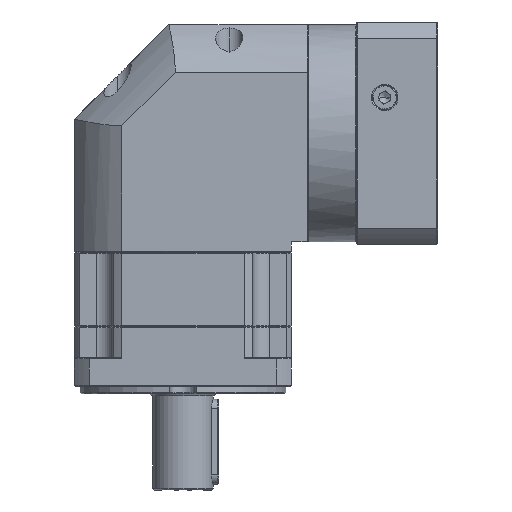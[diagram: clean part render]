
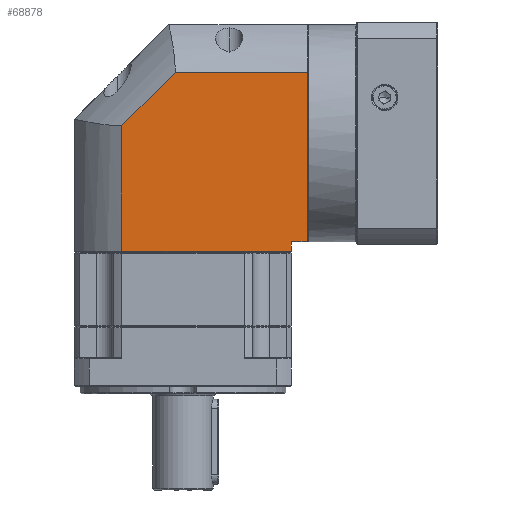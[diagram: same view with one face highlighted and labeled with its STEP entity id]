
A CAD part, front view. The second image highlights one B-rep face of the part: STEP entity #68878.
In plain terms, the highlighted planar face has unit normal (0, -1, 0).
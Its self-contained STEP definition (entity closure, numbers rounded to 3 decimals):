
#1187 = LINE ( 'NONE', #49306, #54558 ) ;
#1414 = CARTESIAN_POINT ( 'NONE',  ( -17.02, 5.353, 45.963 ) ) ;
#7157 = CARTESIAN_POINT ( 'NONE',  ( 8.08, 5.353, 17.625 ) ) ;
#11202 = ORIENTED_EDGE ( 'NONE', *, *, #39828, .F. ) ;
#12199 = CARTESIAN_POINT ( 'NONE',  ( 97.98, 5.353, -55.436 ) ) ;
#12451 = VERTEX_POINT ( 'NONE', #7157 ) ;
#14252 = CARTESIAN_POINT ( 'NONE',  ( 97.98, 5.353, -48.936 ) ) ;
#14408 = DIRECTION ( 'NONE',  ( 1., 0., 0. ) ) ;
#15248 = ORIENTED_EDGE ( 'NONE', *, *, #63106, .F. ) ;
#25586 = VECTOR ( 'NONE', #44256, 1000. ) ;
#25639 = VECTOR ( 'NONE', #92443, 1000. ) ;
#31123 = CARTESIAN_POINT ( 'NONE',  ( 36.419, 5.353, 45.963 ) ) ;
#33727 = ORIENTED_EDGE ( 'NONE', *, *, #87807, .F. ) ;
#34309 = CARTESIAN_POINT ( 'NONE',  ( 106.38, 5.353, -55.436 ) ) ;
#34599 = ORIENTED_EDGE ( 'NONE', *, *, #39906, .F. ) ;
#35878 = DIRECTION ( 'NONE',  ( 0., 1., 0. ) ) ;
#39641 = VERTEX_POINT ( 'NONE', #72481 ) ;
#39828 = EDGE_CURVE ( 'NONE', #12451, #71706, #84429, .T. ) ;
#39906 = EDGE_CURVE ( 'NONE', #95952, #12451, #125965, .T. ) ;
#43702 = EDGE_CURVE ( 'NONE', #71706, #123432, #127220, .T. ) ;
#44256 = DIRECTION ( 'NONE',  ( 1., 0., 0. ) ) ;
#49306 = CARTESIAN_POINT ( 'NONE',  ( -17.02, 5.353, -43.936 ) ) ;
#50174 = FACE_OUTER_BOUND ( 'NONE', #64641, .T. ) ;
#51274 = ORIENTED_EDGE ( 'NONE', *, *, #88042, .F. ) ;
#54558 = VECTOR ( 'NONE', #81912, 1000. ) ;
#55008 = PLANE ( 'NONE',  #85430 ) ;
#63106 = EDGE_CURVE ( 'NONE', #78894, #125622, #88835, .T. ) ;
#64641 = EDGE_LOOP ( 'NONE', ( #15248, #72925, #33727, #124529, #11202, #34599, #51274 ) ) ;
#65963 = CARTESIAN_POINT ( 'NONE',  ( 8.08, 5.353, -48.936 ) ) ;
#67332 = CARTESIAN_POINT ( 'NONE',  ( 8.08, 5.353, -55.436 ) ) ;
#68878 = ADVANCED_FACE ( 'NONE', ( #50174 ), #55008, .F. ) ;
#70472 = LINE ( 'NONE', #34309, #105649 ) ;
#71706 = VERTEX_POINT ( 'NONE', #31123 ) ;
#72481 = CARTESIAN_POINT ( 'NONE',  ( 106.38, 5.353, -43.936 ) ) ;
#72925 = ORIENTED_EDGE ( 'NONE', *, *, #95776, .F. ) ;
#77180 = CARTESIAN_POINT ( 'NONE',  ( 106.38, 5.353, 45.963 ) ) ;
#78894 = VERTEX_POINT ( 'NONE', #135009 ) ;
#81912 = DIRECTION ( 'NONE',  ( -1., 0., 0. ) ) ;
#82302 = LINE ( 'NONE', #124980, #25639 ) ;
#84429 = LINE ( 'NONE', #137218, #86047 ) ;
#85430 = AXIS2_PLACEMENT_3D ( 'NONE', #129459, #35878, #14408 ) ;
#86047 = VECTOR ( 'NONE', #105990, 1000. ) ;
#87807 = EDGE_CURVE ( 'NONE', #123432, #39641, #70472, .T. ) ;
#87870 = DIRECTION ( 'NONE',  ( 0., 0., -1. ) ) ;
#88042 = EDGE_CURVE ( 'NONE', #125622, #95952, #82302, .T. ) ;
#88835 = LINE ( 'NONE', #12199, #120422 ) ;
#92443 = DIRECTION ( 'NONE',  ( -1., 0., 0. ) ) ;
#95776 = EDGE_CURVE ( 'NONE', #39641, #78894, #1187, .T. ) ;
#95952 = VERTEX_POINT ( 'NONE', #65963 ) ;
#97899 = DIRECTION ( 'NONE',  ( 0., 0., -1. ) ) ;
#105649 = VECTOR ( 'NONE', #87870, 1000. ) ;
#105990 = DIRECTION ( 'NONE',  ( 0.707, 0., 0.707 ) ) ;
#115941 = VECTOR ( 'NONE', #121765, 1000. ) ;
#120422 = VECTOR ( 'NONE', #97899, 1000. ) ;
#121765 = DIRECTION ( 'NONE',  ( 0., 0., 1. ) ) ;
#123432 = VERTEX_POINT ( 'NONE', #77180 ) ;
#124529 = ORIENTED_EDGE ( 'NONE', *, *, #43702, .F. ) ;
#124980 = CARTESIAN_POINT ( 'NONE',  ( -17.02, 5.353, -48.936 ) ) ;
#125622 = VERTEX_POINT ( 'NONE', #14252 ) ;
#125965 = LINE ( 'NONE', #67332, #115941 ) ;
#127220 = LINE ( 'NONE', #1414, #25586 ) ;
#129459 = CARTESIAN_POINT ( 'NONE',  ( -17.02, 5.353, -55.436 ) ) ;
#135009 = CARTESIAN_POINT ( 'NONE',  ( 97.98, 5.353, -43.936 ) ) ;
#137218 = CARTESIAN_POINT ( 'NONE',  ( 8.08, 5.353, 17.625 ) ) ;
